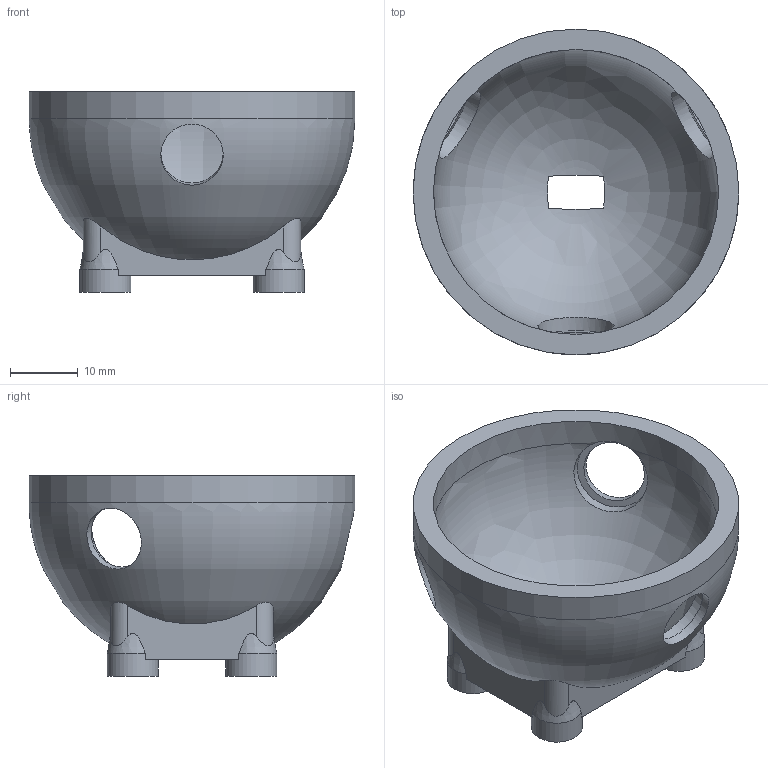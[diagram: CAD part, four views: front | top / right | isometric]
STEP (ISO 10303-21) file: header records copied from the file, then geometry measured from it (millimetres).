
FILE_DESCRIPTION(('Open CASCADE Model'),'2;1');
FILE_NAME('Open CASCADE Shape Model','2026-05-31T19:43:09',('Author'),( 'Open CASCADE'),'Open CASCADE STEP processor 7.6','Open CASCADE 7.6' ,'Unknown');
FILE_SCHEMA(('AP242_MANAGED_MODEL_BASED_3D_ENGINEERING_MIM_LF. {1 0 10303 442 1 1 4 }'));
Length unit declared in the file: millimetre
Products named in the file (1): Open CASCADE STEP translator 7.6 4
Bounding box: 48 x 48 x 29.6 mm (x, y, z)
Volume: 12119.2 mm3; surface area: 8843.3 mm2
Topology: 1 solids, 1 shells, 56 faces, 147 edges, 98 vertices
Faces by surface type: cylinder 24, plane 22, bspline 4, cone 4, revolution 2
Full cylindrical faces by diameter (mm): 3.5 x4, 7.5 x4, 9.2 x3, 11.2 x3, 42 x1, 48 x1
Entity records: 8182 total; most frequent: CARTESIAN_POINT 5355, DIRECTION 486, ORIENTED_EDGE 294, PCURVE 294, DEFINITIONAL_REPRESENTATION 294, LINE 236, VECTOR 236, EDGE_CURVE 147
